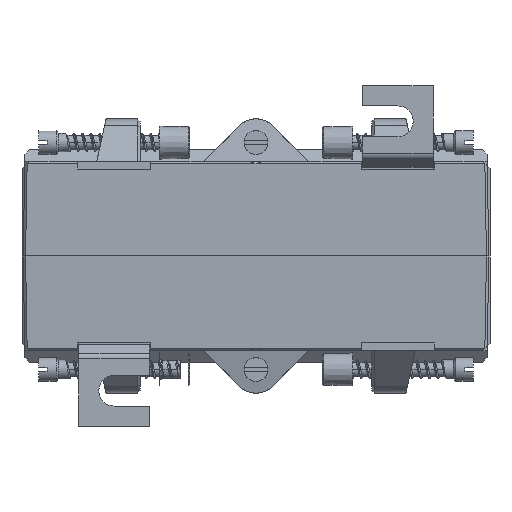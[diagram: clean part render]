
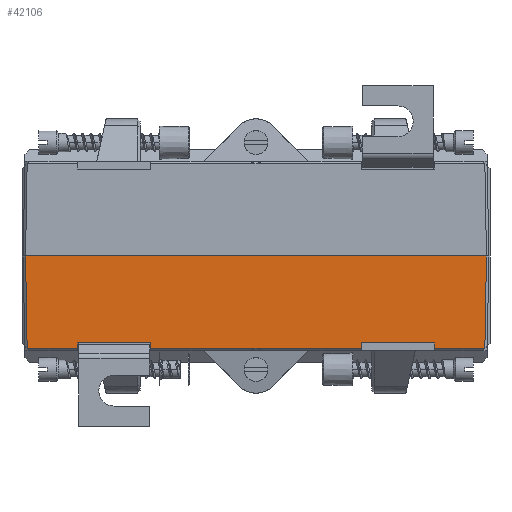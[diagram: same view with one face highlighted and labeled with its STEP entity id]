
A CAD part, front view. The second image highlights one B-rep face of the part: STEP entity #42106.
In plain terms, the highlighted planar face has unit normal (0, -1, -0.018).
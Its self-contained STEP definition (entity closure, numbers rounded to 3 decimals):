
#926=PLANE('',#44814);
#3181=FACE_OUTER_BOUND('',#5472,.T.);
#5472=EDGE_LOOP('',(#31574,#31575,#31576,#31577,#31578,#31579,#31580,#31581,
#31582,#31583,#31584,#31585,#31586,#31587));
#10142=LINE('',#93651,#14123);
#10144=LINE('',#93656,#14125);
#10145=LINE('',#93658,#14126);
#10146=LINE('',#93660,#14127);
#10147=LINE('',#93661,#14128);
#10148=LINE('',#93663,#14129);
#10149=LINE('',#93665,#14130);
#10150=LINE('',#93667,#14131);
#10151=LINE('',#93669,#14132);
#10152=LINE('',#93671,#14133);
#10153=LINE('',#93673,#14134);
#10154=LINE('',#93675,#14135);
#10155=LINE('',#93677,#14136);
#10156=LINE('',#93678,#14137);
#14123=VECTOR('',#50307,1000.);
#14125=VECTOR('',#50311,1000.);
#14126=VECTOR('',#50312,1000.);
#14127=VECTOR('',#50313,1000.);
#14128=VECTOR('',#50314,1000.);
#14129=VECTOR('',#50315,1000.);
#14130=VECTOR('',#50316,1000.);
#14131=VECTOR('',#50317,1000.);
#14132=VECTOR('',#50318,1000.);
#14133=VECTOR('',#50319,1000.);
#14134=VECTOR('',#50320,1000.);
#14135=VECTOR('',#50321,1000.);
#14136=VECTOR('',#50322,1000.);
#14137=VECTOR('',#50323,1000.);
#18646=VERTEX_POINT('',#93648);
#18647=VERTEX_POINT('',#93650);
#18648=VERTEX_POINT('',#93654);
#18649=VERTEX_POINT('',#93655);
#18650=VERTEX_POINT('',#93657);
#18651=VERTEX_POINT('',#93659);
#18652=VERTEX_POINT('',#93662);
#18653=VERTEX_POINT('',#93664);
#18654=VERTEX_POINT('',#93666);
#18655=VERTEX_POINT('',#93668);
#18656=VERTEX_POINT('',#93670);
#18657=VERTEX_POINT('',#93672);
#18658=VERTEX_POINT('',#93674);
#18659=VERTEX_POINT('',#93676);
#23452=EDGE_CURVE('',#18647,#18646,#10142,.T.);
#23454=EDGE_CURVE('',#18648,#18649,#10144,.T.);
#23455=EDGE_CURVE('',#18649,#18650,#10145,.T.);
#23456=EDGE_CURVE('',#18650,#18651,#10146,.T.);
#23457=EDGE_CURVE('',#18647,#18651,#10147,.T.);
#23458=EDGE_CURVE('',#18652,#18646,#10148,.T.);
#23459=EDGE_CURVE('',#18652,#18653,#10149,.T.);
#23460=EDGE_CURVE('',#18653,#18654,#10150,.T.);
#23461=EDGE_CURVE('',#18654,#18655,#10151,.T.);
#23462=EDGE_CURVE('',#18655,#18656,#10152,.T.);
#23463=EDGE_CURVE('',#18656,#18657,#10153,.T.);
#23464=EDGE_CURVE('',#18657,#18658,#10154,.T.);
#23465=EDGE_CURVE('',#18658,#18659,#10155,.T.);
#23466=EDGE_CURVE('',#18648,#18659,#10156,.T.);
#31574=ORIENTED_EDGE('',*,*,#23454,.T.);
#31575=ORIENTED_EDGE('',*,*,#23455,.T.);
#31576=ORIENTED_EDGE('',*,*,#23456,.T.);
#31577=ORIENTED_EDGE('',*,*,#23457,.F.);
#31578=ORIENTED_EDGE('',*,*,#23452,.T.);
#31579=ORIENTED_EDGE('',*,*,#23458,.F.);
#31580=ORIENTED_EDGE('',*,*,#23459,.T.);
#31581=ORIENTED_EDGE('',*,*,#23460,.T.);
#31582=ORIENTED_EDGE('',*,*,#23461,.T.);
#31583=ORIENTED_EDGE('',*,*,#23462,.T.);
#31584=ORIENTED_EDGE('',*,*,#23463,.T.);
#31585=ORIENTED_EDGE('',*,*,#23464,.T.);
#31586=ORIENTED_EDGE('',*,*,#23465,.T.);
#31587=ORIENTED_EDGE('',*,*,#23466,.F.);
#42106=ADVANCED_FACE('',(#3181),#926,.T.);
#44814=AXIS2_PLACEMENT_3D('',#93653,#50309,#50310);
#50307=DIRECTION('',(1.,0.,0.));
#50309=DIRECTION('center_axis',(0.,-1.,
-0.017));
#50310=DIRECTION('ref_axis',(0.,-0.017,
1.));
#50311=DIRECTION('',(0.017,0.017,-1.));
#50312=DIRECTION('',(0.719,0.012,-0.695));
#50313=DIRECTION('',(1.,0.,0.));
#50314=DIRECTION('',(0.,0.017,-1.));
#50315=DIRECTION('',(0.,-0.017,1.));
#50316=DIRECTION('',(1.,0.,0.));
#50317=DIRECTION('',(0.,-0.017,1.));
#50318=DIRECTION('',(1.,0.,0.));
#50319=DIRECTION('',(0.,0.017,-1.));
#50320=DIRECTION('',(1.,0.,0.));
#50321=DIRECTION('',(0.719,-0.012,0.695));
#50322=DIRECTION('',(0.017,-0.017,1.));
#50323=DIRECTION('',(1.,0.,0.));
#93648=CARTESIAN_POINT('',(-22.25,-74.679,-18.4));
#93650=CARTESIAN_POINT('',(-37.75,-74.679,-18.4));
#93651=CARTESIAN_POINT('',(49.25,-74.679,-18.4));
#93653=CARTESIAN_POINT('Origin',(49.25,-75.,0.));
#93654=CARTESIAN_POINT('',(-48.75,-75.,0.));
#93655=CARTESIAN_POINT('',(-48.41,-74.66,-19.491));
#93656=CARTESIAN_POINT('',(-48.72,-74.97,-1.71));
#93657=CARTESIAN_POINT('',(-48.401,-74.66,-19.5));
#93658=CARTESIAN_POINT('',(-47.886,-74.651,-19.997));
#93659=CARTESIAN_POINT('',(-37.75,-74.66,-19.5));
#93660=CARTESIAN_POINT('',(47.883,-74.66,-19.5));
#93661=CARTESIAN_POINT('',(-37.75,-75.,0.));
#93662=CARTESIAN_POINT('',(-22.25,-74.66,-19.5));
#93663=CARTESIAN_POINT('',(-22.25,-75.,0.));
#93664=CARTESIAN_POINT('',(22.25,-74.66,-19.5));
#93665=CARTESIAN_POINT('',(47.883,-74.66,-19.5));
#93666=CARTESIAN_POINT('',(22.25,-74.679,-18.4));
#93667=CARTESIAN_POINT('',(22.25,-75.,0.));
#93668=CARTESIAN_POINT('',(37.75,-74.679,-18.4));
#93669=CARTESIAN_POINT('',(49.25,-74.679,-18.4));
#93670=CARTESIAN_POINT('',(37.75,-74.66,-19.5));
#93671=CARTESIAN_POINT('',(37.75,-75.,0.));
#93672=CARTESIAN_POINT('',(48.401,-74.66,-19.5));
#93673=CARTESIAN_POINT('',(47.883,-74.66,-19.5));
#93674=CARTESIAN_POINT('',(48.41,-74.66,-19.491));
#93675=CARTESIAN_POINT('',(47.886,-74.651,-19.997));
#93676=CARTESIAN_POINT('',(48.75,-75.,0.));
#93677=CARTESIAN_POINT('',(48.75,-75.,0.009));
#93678=CARTESIAN_POINT('',(-49.25,-75.,0.));
